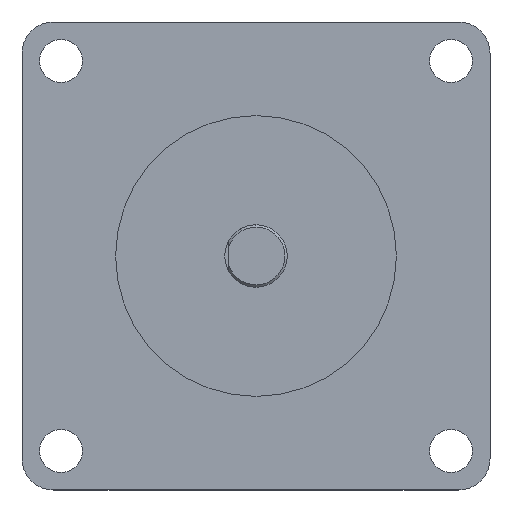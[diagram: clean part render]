
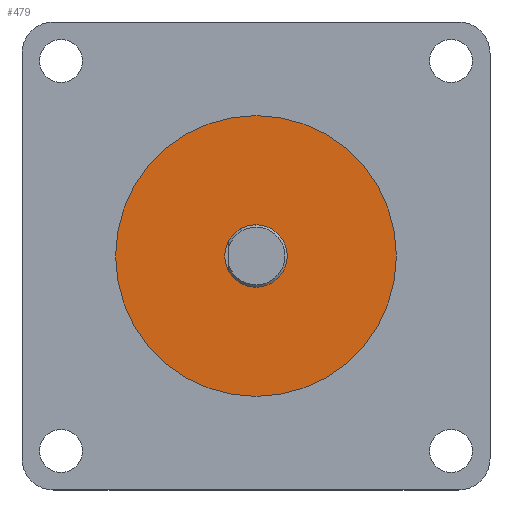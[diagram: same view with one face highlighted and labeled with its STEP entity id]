
A CAD part, left-side view. The second image highlights one B-rep face of the part: STEP entity #479.
In plain terms, the highlighted planar face has unit normal (-1, 0, 0).
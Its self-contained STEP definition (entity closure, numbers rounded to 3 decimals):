
#32 = EDGE_CURVE ( 'NONE', #628, #2256, #1915, .T. ) ;
#52 = DIRECTION ( 'NONE',  ( 0., 0., 1. ) ) ;
#100 = EDGE_LOOP ( 'NONE', ( #1543, #3301 ) ) ;
#230 = EDGE_CURVE ( 'NONE', #2256, #628, #954, .T. ) ;
#250 = EDGE_LOOP ( 'NONE', ( #1923, #666 ) ) ;
#252 = CARTESIAN_POINT ( 'NONE',  ( -1.5, 0., 0. ) ) ;
#302 = EDGE_CURVE ( 'NONE', #2063, #2132, #1447, .T. ) ;
#426 = DIRECTION ( 'NONE',  ( -1., 0., 0. ) ) ;
#432 = CARTESIAN_POINT ( 'NONE',  ( -1.5, 0., 4. ) ) ;
#479 = ADVANCED_FACE ( 'NONE', ( #2597, #2978 ), #2358, .T. ) ;
#546 = CARTESIAN_POINT ( 'NONE',  ( -1.5, 0., -4. ) ) ;
#628 = VERTEX_POINT ( 'NONE', #1983 ) ;
#666 = ORIENTED_EDGE ( 'NONE', *, *, #32, .T. ) ;
#842 = DIRECTION ( 'NONE',  ( 0., 0., 1. ) ) ;
#954 = CIRCLE ( 'NONE', #1287, 18. ) ;
#1004 = CARTESIAN_POINT ( 'NONE',  ( -1.5, 0., 0. ) ) ;
#1193 = AXIS2_PLACEMENT_3D ( 'NONE', #2529, #426, #52 ) ;
#1201 = DIRECTION ( 'NONE',  ( -1., 0., 0. ) ) ;
#1287 = AXIS2_PLACEMENT_3D ( 'NONE', #2759, #2401, #2053 ) ;
#1447 = CIRCLE ( 'NONE', #3433, 4. ) ;
#1543 = ORIENTED_EDGE ( 'NONE', *, *, #3088, .F. ) ;
#1892 = CARTESIAN_POINT ( 'NONE',  ( -1.5, 0., 0. ) ) ;
#1915 = CIRCLE ( 'NONE', #1193, 18. ) ;
#1923 = ORIENTED_EDGE ( 'NONE', *, *, #230, .T. ) ;
#1983 = CARTESIAN_POINT ( 'NONE',  ( -1.5, 0., 18. ) ) ;
#2053 = DIRECTION ( 'NONE',  ( 0., 0., 1. ) ) ;
#2063 = VERTEX_POINT ( 'NONE', #432 ) ;
#2084 = CIRCLE ( 'NONE', #2610, 4. ) ;
#2132 = VERTEX_POINT ( 'NONE', #546 ) ;
#2256 = VERTEX_POINT ( 'NONE', #2579 ) ;
#2358 = PLANE ( 'NONE',  #3411 ) ;
#2401 = DIRECTION ( 'NONE',  ( -1., 0., 0. ) ) ;
#2529 = CARTESIAN_POINT ( 'NONE',  ( -1.5, 0., 0. ) ) ;
#2579 = CARTESIAN_POINT ( 'NONE',  ( -1.5, 0., -18. ) ) ;
#2597 = FACE_OUTER_BOUND ( 'NONE', #250, .T. ) ;
#2610 = AXIS2_PLACEMENT_3D ( 'NONE', #1004, #3039, #2678 ) ;
#2678 = DIRECTION ( 'NONE',  ( 0., 0., 1. ) ) ;
#2759 = CARTESIAN_POINT ( 'NONE',  ( -1.5, 0., 0. ) ) ;
#2978 = FACE_BOUND ( 'NONE', #100, .T. ) ;
#2993 = DIRECTION ( 'NONE',  ( 0., 0., 1. ) ) ;
#3039 = DIRECTION ( 'NONE',  ( -1., 0., 0. ) ) ;
#3088 = EDGE_CURVE ( 'NONE', #2132, #2063, #2084, .T. ) ;
#3301 = ORIENTED_EDGE ( 'NONE', *, *, #302, .F. ) ;
#3350 = DIRECTION ( 'NONE',  ( -1., 0., 0. ) ) ;
#3411 = AXIS2_PLACEMENT_3D ( 'NONE', #252, #3350, #2993 ) ;
#3433 = AXIS2_PLACEMENT_3D ( 'NONE', #1892, #1201, #842 ) ;
